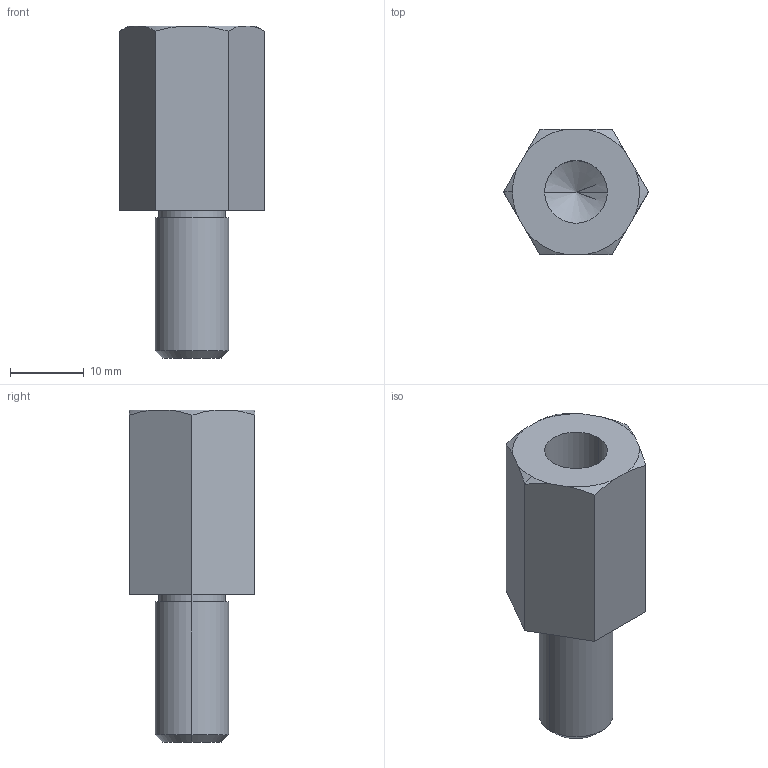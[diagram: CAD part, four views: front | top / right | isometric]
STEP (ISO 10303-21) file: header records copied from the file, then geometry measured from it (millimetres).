
FILE_DESCRIPTION (( 'STEP AP214' ), '1' );
FILE_NAME ('CP-023AL(20L)-2.STEP', '2021-10-21T06:06:14', ( '' ), ( '' ), 'SwSTEP 2.0', 'SolidWorks 2018', '' );
FILE_SCHEMA (( 'AUTOMOTIVE_DESIGN' ));
Length unit declared in the file: millimetre
Products named in the file (1): CP-023AL(20L)-2
Bounding box: 19.63 x 17 x 45 mm (x, y, z)
Volume: 6554.2 mm3; surface area: 3168.8 mm2
Topology: 1 solids, 1 shells, 27 faces, 64 edges, 40 vertices
Faces by surface type: cone 11, plane 10, cylinder 6
Entity records: 887 total; most frequent: CARTESIAN_POINT 198, DIRECTION 127, ORIENTED_EDGE 124, EDGE_CURVE 62, AXIS2_PLACEMENT_3D 49, VERTEX_POINT 40, EDGE_LOOP 30, LINE 29
